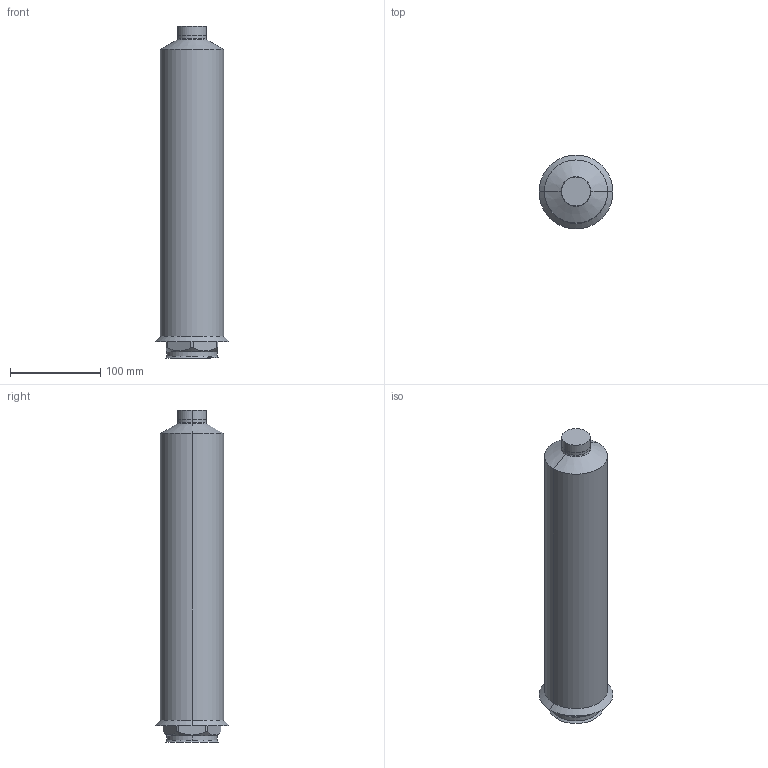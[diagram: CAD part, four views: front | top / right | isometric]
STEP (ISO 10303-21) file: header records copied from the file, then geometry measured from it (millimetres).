
FILE_DESCRIPTION (( 'STEP AP214' ), '1' );
FILE_NAME ('T24_CLOSED_350_HELICAL.STEP', '2009-05-11T13:23:19', ( 'Synventive Molding Solutions' ), ( 'Synventive Molding Solutions' ), 'SwSTEP 2.0', 'SolidWorks 2008', '' );
FILE_SCHEMA (( 'AUTOMOTIVE_DESIGN' ));
Length unit declared in the file: millimetre
Products named in the file (1): T24_CLOSED_350_HELICAL
Bounding box: 82 x 82 x 368 mm (x, y, z)
Volume: 2077854.6 mm3; surface area: 165648 mm2
Topology: 2 solids, 2 shells, 198 faces, 525 edges, 333 vertices
Faces by surface type: cylinder 73, plane 68, bspline 27, torus 18, cone 12
Entity records: 18011 total; most frequent: CARTESIAN_POINT 11236, ORIENTED_EDGE 1050, DIRECTION 879, EDGE_CURVE 525, VERTEX_POINT 333, AXIS2_PLACEMENT_3D 333, LINE 213, VECTOR 213
